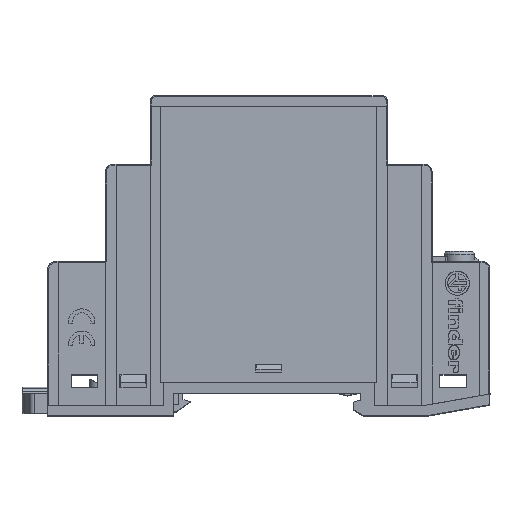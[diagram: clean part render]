
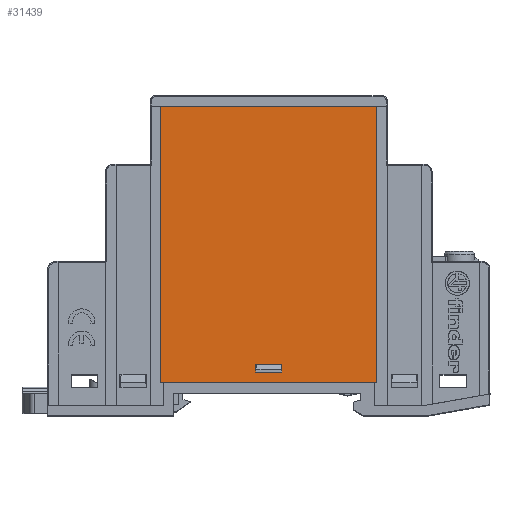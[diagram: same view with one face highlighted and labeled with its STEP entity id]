
A CAD part, top view. The second image highlights one B-rep face of the part: STEP entity #31439.
In plain terms, the highlighted planar face has unit normal (0, 0, 1).
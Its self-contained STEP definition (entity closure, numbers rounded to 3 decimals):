
#625=PLANE('',#33818);
#3543=LINE('',#48533,#7581);
#3545=LINE('',#48537,#7583);
#3546=LINE('',#48540,#7584);
#3547=LINE('',#48542,#7585);
#3548=LINE('',#48544,#7586);
#3549=LINE('',#48545,#7587);
#3550=LINE('',#48547,#7588);
#3551=LINE('',#48549,#7589);
#7581=VECTOR('',#38738,1000.);
#7583=VECTOR('',#38742,1000.);
#7584=VECTOR('',#38743,1000.);
#7585=VECTOR('',#38744,1000.);
#7586=VECTOR('',#38745,1000.);
#7587=VECTOR('',#38746,1000.);
#7588=VECTOR('',#38747,1000.);
#7589=VECTOR('',#38748,1000.);
#13627=ORIENTED_EDGE('',*,*,#20455,.T.);
#13628=ORIENTED_EDGE('',*,*,#20456,.F.);
#13629=ORIENTED_EDGE('',*,*,#20457,.F.);
#13630=ORIENTED_EDGE('',*,*,#20458,.F.);
#13631=ORIENTED_EDGE('',*,*,#20453,.T.);
#13632=ORIENTED_EDGE('',*,*,#20459,.F.);
#13633=ORIENTED_EDGE('',*,*,#20460,.F.);
#13634=ORIENTED_EDGE('',*,*,#20461,.F.);
#20453=EDGE_CURVE('',#24589,#24588,#3543,.T.);
#20455=EDGE_CURVE('',#24590,#24591,#3545,.T.);
#20456=EDGE_CURVE('',#24592,#24591,#3546,.T.);
#20457=EDGE_CURVE('',#24593,#24592,#3547,.T.);
#20458=EDGE_CURVE('',#24590,#24593,#3548,.T.);
#20459=EDGE_CURVE('',#24594,#24588,#3549,.T.);
#20460=EDGE_CURVE('',#24595,#24594,#3550,.T.);
#20461=EDGE_CURVE('',#24589,#24595,#3551,.T.);
#24588=VERTEX_POINT('',#48532);
#24589=VERTEX_POINT('',#48534);
#24590=VERTEX_POINT('',#48538);
#24591=VERTEX_POINT('',#48539);
#24592=VERTEX_POINT('',#48541);
#24593=VERTEX_POINT('',#48543);
#24594=VERTEX_POINT('',#48546);
#24595=VERTEX_POINT('',#48548);
#27586=EDGE_LOOP('',(#13627,#13628,#13629,#13630));
#27587=EDGE_LOOP('',(#13631,#13632,#13633,#13634));
#29466=FACE_BOUND('',#27586,.T.);
#29467=FACE_BOUND('',#27587,.T.);
#31439=ADVANCED_FACE('',(#29466,#29467),#625,.T.);
#33818=AXIS2_PLACEMENT_3D('',#48536,#38740,#38741);
#38738=DIRECTION('',(0.,-1.,0.));
#38740=DIRECTION('',(0.,0.,1.));
#38741=DIRECTION('',(1.,0.,0.));
#38742=DIRECTION('',(0.,-1.,0.));
#38743=DIRECTION('',(1.,0.,0.));
#38744=DIRECTION('',(0.,-1.,0.));
#38745=DIRECTION('',(-1.,0.,0.));
#38746=DIRECTION('',(-1.,0.,0.));
#38747=DIRECTION('',(0.,-1.,0.));
#38748=DIRECTION('',(1.,0.,0.));
#48532=CARTESIAN_POINT('',(-20.5,-47.,0.));
#48533=CARTESIAN_POINT('',(-20.5,5.5,0.));
#48534=CARTESIAN_POINT('',(-20.5,5.5,0.));
#48536=CARTESIAN_POINT('',(-20.501,-47.001,0.));
#48537=CARTESIAN_POINT('',(2.5,-43.5,0.));
#48538=CARTESIAN_POINT('',(2.5,-43.5,0.));
#48539=CARTESIAN_POINT('',(2.5,-45.,0.));
#48540=CARTESIAN_POINT('',(-2.5,-45.,0.));
#48541=CARTESIAN_POINT('',(-2.5,-45.,0.));
#48542=CARTESIAN_POINT('',(-2.5,-43.5,0.));
#48543=CARTESIAN_POINT('',(-2.5,-43.5,0.));
#48544=CARTESIAN_POINT('',(2.5,-43.5,0.));
#48545=CARTESIAN_POINT('',(20.5,-47.,0.));
#48546=CARTESIAN_POINT('',(20.5,-47.,0.));
#48547=CARTESIAN_POINT('',(20.5,5.5,0.));
#48548=CARTESIAN_POINT('',(20.5,5.5,0.));
#48549=CARTESIAN_POINT('',(-20.5,5.5,0.));
